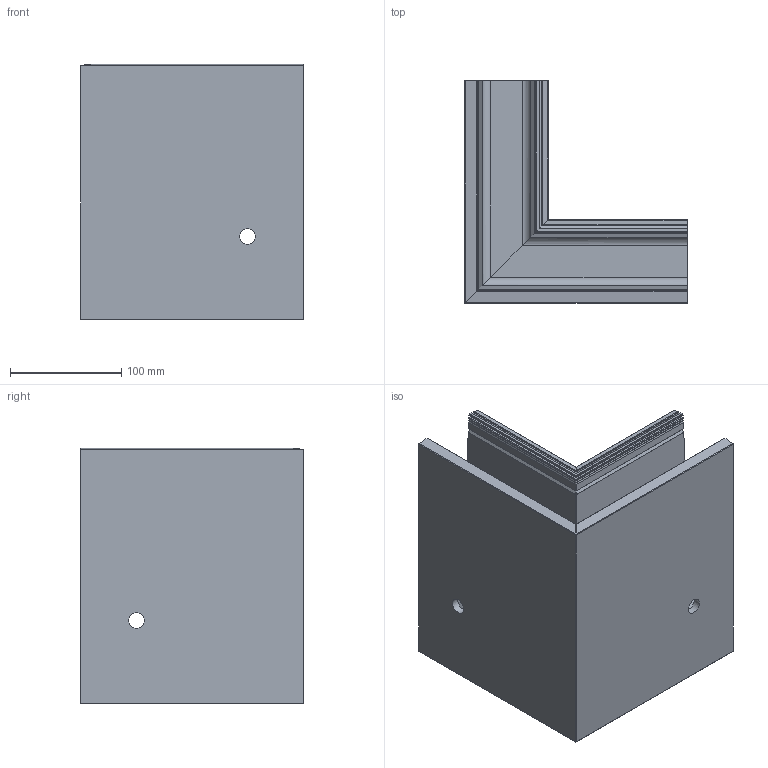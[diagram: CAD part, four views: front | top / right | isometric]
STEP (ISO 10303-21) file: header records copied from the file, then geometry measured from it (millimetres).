
FILE_DESCRIPTION(/* description */ ('TURBOFLEX TL-3621 inside corner aluminum mill finish'),/* implementation_level */ '2;1');
FILE_NAME(/* name */ '1036213001x.stp',/* time_stamp */ '2025-11-13T10:30:53+01:00',/* author */ ('nethmini'),/* organization */ (''),/* preprocessor_version */ 'ST-DEVELOPER v19.2',/* originating_system */ 'Autodesk Inventor 2024',/* authorisation */ '');
FILE_SCHEMA (('AUTOMOTIVE_DESIGN { 1 0 10303 214 3 1 1 }'));
Length unit declared in the file: millimetre
Products named in the file (3): 10362130010; 99362130110; 99362130210
Assembly tree (2 placements, depth 2):
  10362130010
    99362130110
    99362130210
Bounding box: 200 x 200 x 229.95 mm (x, y, z)
Volume: 1152527.8 mm3; surface area: 581411.2 mm2
Topology: 2 solids, 2 shells, 398 faces, 1182 edges, 788 vertices
Faces by surface type: cylinder 214, plane 184
Full cylindrical faces by diameter (mm): 14 x2, 30 x2
Entity records: 14098 total; most frequent: DIRECTION 2416, CARTESIAN_POINT 2373, ORIENTED_EDGE 2364, EDGE_CURVE 1182, AXIS2_PLACEMENT_3D 831, VERTEX_POINT 788, LINE 754, VECTOR 754
